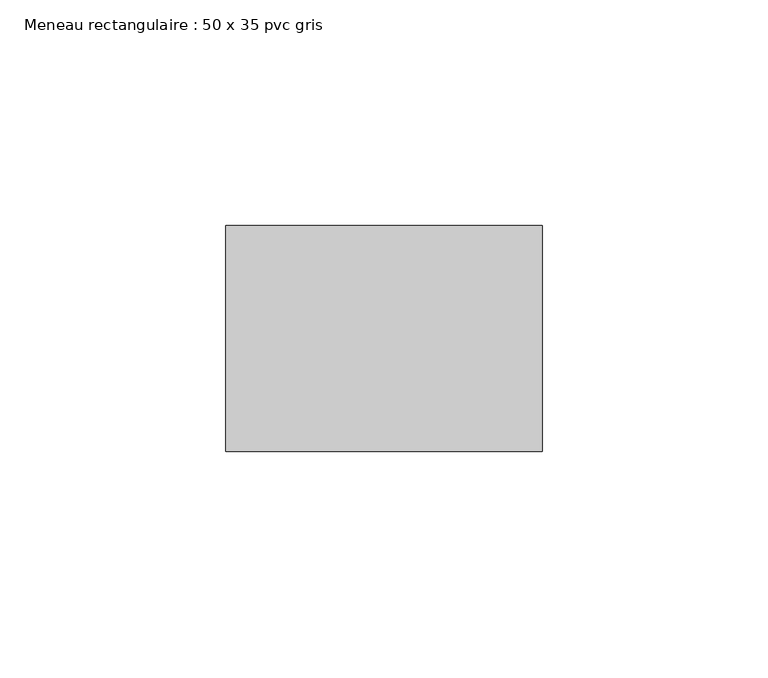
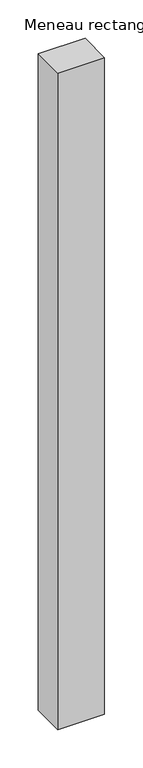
"""IFC4 building model written with IfcOpenShell, lengths in millimetres: member geometry, Meneau rectangulaire : 50 x 35 pvc gris."""

import ifcopenshell
import ifcopenshell.guid

model = None  # the IFC model being written
_history = None  # IfcOwnerHistory: only IFC2X3 demands one
_inside = {}  # id of a spatial element -> (the spatial element, [elements in it])
_under = {}  # id of a project, library or spatial element -> (it, [spatial elements below it])
_declared = {}  # id of a project -> (the project, [libraries it declares])
_typed = {}  # id of a type object -> (the type object, [elements of that type])
_made_of = {}  # id of a material, layer set ... -> (it, [elements and type objects made of it])


def new_model(schema):
    """Start an empty IFC model of exactly this schema.

    Asked for "IFC4X3", IfcOpenShell would pick the latest addendum, in which some entities
    have other attributes; the version numbers below select the first issue.
    IFC2X3 requires an IfcOwnerHistory on every rooted entity: one is made here for all.
    """
    global model, _history
    if schema == "IFC4X3":
        model = ifcopenshell.file(schema_version=(4, 3, 0, 0))
    else:
        model = ifcopenshell.file(schema=schema)
    _inside.clear()
    _under.clear()
    _declared.clear()
    _typed.clear()
    _made_of.clear()
    _history = None
    if model.schema == "IFC2X3":
        org = make("IfcOrganization", Name="unknown")
        user = make(
            "IfcPersonAndOrganization",
            ThePerson=make("IfcPerson", FamilyName="unknown"),
            TheOrganization=org,
        )
        app = make(
            "IfcApplication",
            ApplicationDeveloper=org,
            Version="unknown",
            ApplicationFullName="unknown",
            ApplicationIdentifier="unknown",
        )
        _history = make(
            "IfcOwnerHistory",
            OwningUser=user,
            OwningApplication=app,
            ChangeAction="ADDED",
            CreationDate=0,
        )
    return model


def make(cls, **values):
    """One entity of the class cls with the attributes given. An attribute that is None is left unset."""
    return model.create_entity(
        cls, **{name: value for name, value in values.items() if value is not None}
    )


def rooted(cls, **values):
    """An entity with a GlobalId (a new one), such as an element, a storey or a relation."""
    return make(cls, GlobalId=ifcopenshell.guid.new(), OwnerHistory=_history, **values)


def si_unit(unit_type, name, prefix=None):
    """IfcSIUnit, for example si_unit("LENGTHUNIT", "METRE", prefix="MILLI")."""
    return make("IfcSIUnit", UnitType=unit_type, Prefix=prefix, Name=name)


def assignment(units):
    """IfcUnitAssignment: the units of a project."""
    return None if units is None else make("IfcUnitAssignment", Units=units)


def point(xyz):
    """IfcCartesianPoint."""
    return None if xyz is None else make("IfcCartesianPoint", Coordinates=xyz)


def direction(xyz):
    """IfcDirection."""
    return None if xyz is None else make("IfcDirection", DirectionRatios=xyz)


def frame(location, z_axis=None, x_axis=None):
    """IfcAxis2Placement3D, a coordinate frame: its origin and axes. An axis left out is left unset."""
    return make(
        "IfcAxis2Placement3D",
        Location=point(location),
        Axis=direction(z_axis),
        RefDirection=direction(x_axis),
    )


def origin():
    """The frame at (0, 0, 0) with its axes left unset."""
    return frame((0.0, 0.0, 0.0))


def place(relative_to, where):
    """IfcLocalPlacement: puts the frame where relative to a parent placement (None: the world)."""
    return make(
        "IfcLocalPlacement", PlacementRelTo=relative_to, RelativePlacement=where
    )


def context(
    kind, dimensions, precision=None, world=None, true_north=None, identifier=None
):
    """IfcGeometricRepresentationContext, for example the 3D "Model" context."""
    return make(
        "IfcGeometricRepresentationContext",
        ContextIdentifier=identifier,
        ContextType=kind,
        CoordinateSpaceDimension=dimensions,
        Precision=precision,
        WorldCoordinateSystem=world,
        TrueNorth=true_north,
    )


def project(units=None, contexts=None):
    """IfcProject with its units and contexts."""
    return rooted(
        "IfcProject",
        Name="project",
        RepresentationContexts=contexts,
        UnitsInContext=assignment(units),
    )


def spatial(cls, under=None, at=None, **own):
    """A site, building, storey or space (cls), placed at a placement, below another one or the project."""
    s = rooted(cls, ObjectPlacement=at, **own)
    if under is not None:
        _under.setdefault(under.id(), (under, []))[1].append(s)
    return s


def polyline(points):
    """IfcPolyline through the points."""
    return make("IfcPolyline", Points=[point(p) for p in points])


def outline(outer, holes=None, kind="AREA"):
    """IfcArbitraryClosedProfileDef: a profile drawn as a closed curve; with holes, ...WithVoids."""
    if holes is None:
        return make("IfcArbitraryClosedProfileDef", ProfileType=kind, OuterCurve=outer)
    return make(
        "IfcArbitraryProfileDefWithVoids",
        ProfileType=kind,
        OuterCurve=outer,
        InnerCurves=holes,
    )


def extrude(swept, where, along, depth):
    """IfcExtrudedAreaSolid: the profile swept, set in the frame where, extruded along a direction by depth."""
    return make(
        "IfcExtrudedAreaSolid",
        SweptArea=swept,
        Position=where,
        ExtrudedDirection=direction(along),
        Depth=depth,
    )


def shape(context_of_items, identifier, shape_type, items):
    """IfcShapeRepresentation: the items that make up one representation, for example the "Body"."""
    return make(
        "IfcShapeRepresentation",
        ContextOfItems=context_of_items,
        RepresentationIdentifier=identifier,
        RepresentationType=shape_type,
        Items=items,
    )


def source(mapping_origin, context_of_items, identifier, shape_type, items):
    """IfcRepresentationMap: a shape defined once, which mapped items show again and again."""
    return make(
        "IfcRepresentationMap",
        MappingOrigin=mapping_origin,
        MappedRepresentation=shape(context_of_items, identifier, shape_type, items),
    )


def transform(
    local_origin,
    x_axis=None,
    y_axis=None,
    z_axis=None,
    scale=None,
    scale2=None,
    scale3=None,
    uniform=True,
):
    """IfcCartesianTransformationOperator3D, or its non-uniform kind. x_axis, y_axis, z_axis: its Axis1, 2, 3."""
    if uniform:
        return make(
            "IfcCartesianTransformationOperator3D",
            Axis1=direction(x_axis),
            Axis2=direction(y_axis),
            LocalOrigin=point(local_origin),
            Scale=scale,
            Axis3=direction(z_axis),
        )
    return make(
        "IfcCartesianTransformationOperator3DnonUniform",
        Axis1=direction(x_axis),
        Axis2=direction(y_axis),
        LocalOrigin=point(local_origin),
        Scale=scale,
        Axis3=direction(z_axis),
        Scale2=scale2,
        Scale3=scale3,
    )


def mapped(mapping_source, mapping_target):
    """IfcMappedItem: shows the shape of a source again, moved by a transform."""
    return make(
        "IfcMappedItem", MappingSource=mapping_source, MappingTarget=mapping_target
    )


def made_of(thing, what):
    """Note that an element or type object is made of a material, layer set ...; save() writes the relation."""
    if what is not None:
        _made_of.setdefault(what.id(), (what, []))[1].append(thing)
    return thing


def element(
    cls,
    number,
    at=None,
    inside=None,
    cuts=None,
    type_object=None,
    material=None,
    context=None,
    identifier="Body",
    shape_type=None,
    held_by="IfcProductDefinitionShape",
    body=None,
    shapes=None,
    **own,
):
    """One element of the class cls, such as IfcWall. Its Tag is "e" and its number.

    at: its placement. inside: the storey or other place that contains it. cuts: it is an
    opening in that element (IfcRelVoidsElement). A single representation is given by context,
    identifier, shape_type and body (its items); several are given by shapes. held_by: the class
    of the entity that holds the representations. save() writes the other relations.
    """
    e = rooted(cls, Tag="e%d" % number, ObjectPlacement=at, **own)
    if body is not None:
        shapes = [shape(context, identifier, shape_type, body)]
    if shapes is not None:
        e.Representation = make(held_by, Representations=shapes)
    if inside is not None:
        _inside.setdefault(inside.id(), (inside, []))[1].append(e)
    if cuts is not None:
        rooted(
            "IfcRelVoidsElement", RelatingBuildingElement=cuts, RelatedOpeningElement=e
        )
    if type_object is not None:
        _typed.setdefault(type_object.id(), (type_object, []))[1].append(e)
    return made_of(e, material)


def aggregate(whole, parts):
    """IfcRelAggregates: a whole, such as a stair, and the parts it consists of."""
    return rooted("IfcRelAggregates", RelatingObject=whole, RelatedObjects=parts)


def save(model, path):
    """Write the relations noted so far, then the file.

    IfcRelAggregates (storeys below a building ...), IfcRelContainedInSpatialStructure (elements
    in a storey), IfcRelDefinesByType, IfcRelAssociatesMaterial and IfcRelDeclares: one each for
    every whole, place, type object, material and project.
    """
    for whole, parts in _under.values():
        aggregate(whole, parts)
    for where, things in _inside.values():
        rooted(
            "IfcRelContainedInSpatialStructure",
            RelatedElements=things,
            RelatingStructure=where,
        )
    for kind, things in _typed.values():
        rooted("IfcRelDefinesByType", RelatedObjects=things, RelatingType=kind)
    for what, things in _made_of.values():
        rooted("IfcRelAssociatesMaterial", RelatedObjects=things, RelatingMaterial=what)
    for by, libraries in _declared.values():
        rooted("IfcRelDeclares", RelatingContext=by, RelatedDefinitions=libraries)
    model.write(path)


def meneau_rectangulaire_50_x_35_pvc_gris_e3bfb686(model_context):
    return source(origin(), model_context, "Body", "SweptSolid", [
        extrude(outline(polyline([(35.0, 0.0), (35.0, -50.0), (-35.0, -50.0), (-35.0, 0.0), (35.0, 0.0)])), frame((0.0, 0.0, -1042.0), z_axis=(0.0, 0.0, 1.0), x_axis=(1.0, 0.0, 0.0)), (0.0, 0.0, 1.0), 1042.0),
    ])


if __name__ == "__main__":
    model = new_model("IFC4")
    model_context = context("Model", 3, world=origin())
    ifc_project = project(units=[si_unit("LENGTHUNIT", "METRE", prefix="MILLI")], contexts=[model_context])
    site = spatial("IfcSite", under=ifc_project)
    building = spatial("IfcBuilding", under=site)
    placement = place(None, origin())
    meneau_rectangulaire_50_x_35_pvc_gris_shape = meneau_rectangulaire_50_x_35_pvc_gris_e3bfb686(model_context)
    element("IfcMember", 1, ObjectType="Meneau rectangulaire : 50 x 35 pvc gris", at=placement, inside=building, context=model_context, shape_type="MappedRepresentation", body=[
        mapped(meneau_rectangulaire_50_x_35_pvc_gris_shape, transform((0.0, 0.0, 0.0), x_axis=(1.0, 0.0, 0.0), y_axis=(0.0, 1.0, 0.0), z_axis=(0.0, 0.0, 1.0))),
    ])
    save(model, "model.ifc")
